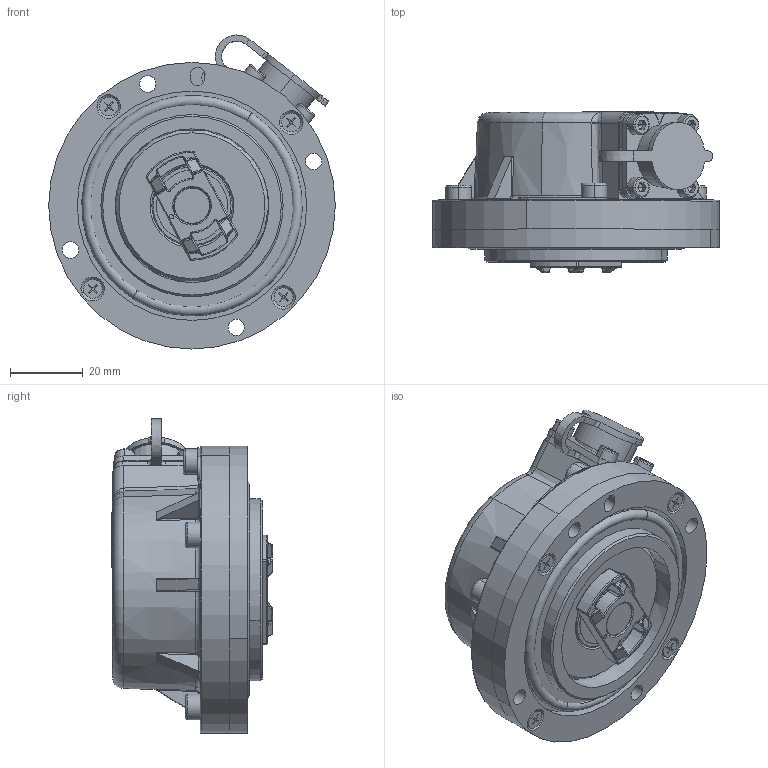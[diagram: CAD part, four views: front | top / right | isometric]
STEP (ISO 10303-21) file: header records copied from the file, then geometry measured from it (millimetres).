
FILE_DESCRIPTION (( 'STEP AP203' ), '1' );
FILE_NAME ('十字联轴编码器SROA79.STEP', '2022-07-26T06:11:50', ( '' ), ( '' ), 'SwSTEP 2.0', 'SolidWorks 2016', '' );
FILE_SCHEMA (( 'CONFIG_CONTROL_DESIGN' ));
Length unit declared in the file: millimetre
Products named in the file (1): 坋趼薊粣晤鎢んSROA79
Bounding box: 78.6 x 44.2 x 86.12 mm (x, y, z)
Surface area: 33377.6 mm2 (no closed solid volume)
Topology: 0 solids, 35 shells, 644 faces, 2280 edges, 1591 vertices
Faces by surface type: plane 220, cylinder 166, bspline 145, torus 67, cone 41, sphere 5
Entity records: 30553 total; most frequent: CARTESIAN_POINT 12140, ORIENTED_EDGE 3596, DIRECTION 3590, EDGE_CURVE 2250, VERTEX_POINT 1586, AXIS2_PLACEMENT_3D 1304, LINE 982, VECTOR 982
